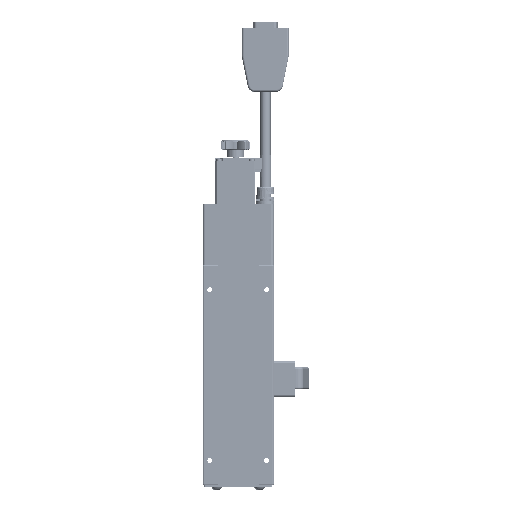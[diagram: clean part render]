
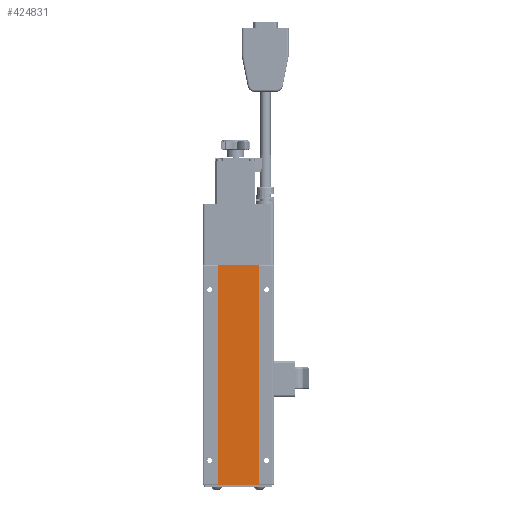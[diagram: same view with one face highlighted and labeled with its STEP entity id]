
A CAD part, front view. The second image highlights one B-rep face of the part: STEP entity #424831.
In plain terms, the highlighted planar face has unit normal (0, -1, 0).
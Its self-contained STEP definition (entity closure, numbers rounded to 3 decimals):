
#26603 = CARTESIAN_POINT ( 'NONE',  ( -14.3, 0.8, 0.2 ) ) ;
#27844 = EDGE_CURVE ( 'NONE', #413925, #462987, #107283, .T. ) ;
#31230 = FACE_OUTER_BOUND ( 'NONE', #381231, .T. ) ;
#35316 = DIRECTION ( 'NONE',  ( -1., 0., 0. ) ) ;
#57602 = CARTESIAN_POINT ( 'NONE',  ( 14.3, 0.8, 154.8 ) ) ;
#65198 = DIRECTION ( 'NONE',  ( 0., 0., -1. ) ) ;
#74816 = DIRECTION ( 'NONE',  ( 1., 0., 0. ) ) ;
#100041 = VERTEX_POINT ( 'NONE', #245559 ) ;
#107283 = LINE ( 'NONE', #109817, #143945 ) ;
#109817 = CARTESIAN_POINT ( 'NONE',  ( 14.3, 0.8, 0.2 ) ) ;
#115144 = ORIENTED_EDGE ( 'NONE', *, *, #454145, .T. ) ;
#120136 = LINE ( 'NONE', #238562, #187564 ) ;
#124723 = CARTESIAN_POINT ( 'NONE',  ( -14.3, 0.8, 0.2 ) ) ;
#143945 = VECTOR ( 'NONE', #223189, 1000. ) ;
#154719 = AXIS2_PLACEMENT_3D ( 'NONE', #383861, #430131, #231987 ) ;
#176709 = EDGE_CURVE ( 'NONE', #100041, #429113, #379214, .T. ) ;
#187564 = VECTOR ( 'NONE', #35316, 1000. ) ;
#191647 = VECTOR ( 'NONE', #74816, 1000. ) ;
#205334 = ORIENTED_EDGE ( 'NONE', *, *, #27844, .T. ) ;
#223189 = DIRECTION ( 'NONE',  ( 0., 0., 1. ) ) ;
#229337 = CARTESIAN_POINT ( 'NONE',  ( -14.3, 0.8, 0.2 ) ) ;
#231987 = DIRECTION ( 'NONE',  ( -1., 0., 0. ) ) ;
#238562 = CARTESIAN_POINT ( 'NONE',  ( -14.3, 0.8, 154.8 ) ) ;
#245559 = CARTESIAN_POINT ( 'NONE',  ( -14.3, 0.8, 154.8 ) ) ;
#259047 = ORIENTED_EDGE ( 'NONE', *, *, #176709, .T. ) ;
#260647 = ORIENTED_EDGE ( 'NONE', *, *, #498460, .T. ) ;
#347775 = CARTESIAN_POINT ( 'NONE',  ( 14.3, 0.8, 0.2 ) ) ;
#379214 = LINE ( 'NONE', #26603, #506677 ) ;
#381231 = EDGE_LOOP ( 'NONE', ( #259047, #115144, #205334, #260647 ) ) ;
#383861 = CARTESIAN_POINT ( 'NONE',  ( -14.3, 0.8, 154.8 ) ) ;
#413925 = VERTEX_POINT ( 'NONE', #347775 ) ;
#424831 = ADVANCED_FACE ( 'NONE', ( #31230 ), #468704, .F. ) ;
#429113 = VERTEX_POINT ( 'NONE', #124723 ) ;
#430131 = DIRECTION ( 'NONE',  ( 0., 1., 0. ) ) ;
#454145 = EDGE_CURVE ( 'NONE', #429113, #413925, #473682, .T. ) ;
#462987 = VERTEX_POINT ( 'NONE', #57602 ) ;
#468704 = PLANE ( 'NONE',  #154719 ) ;
#473682 = LINE ( 'NONE', #229337, #191647 ) ;
#498460 = EDGE_CURVE ( 'NONE', #462987, #100041, #120136, .T. ) ;
#506677 = VECTOR ( 'NONE', #65198, 1000. ) ;
